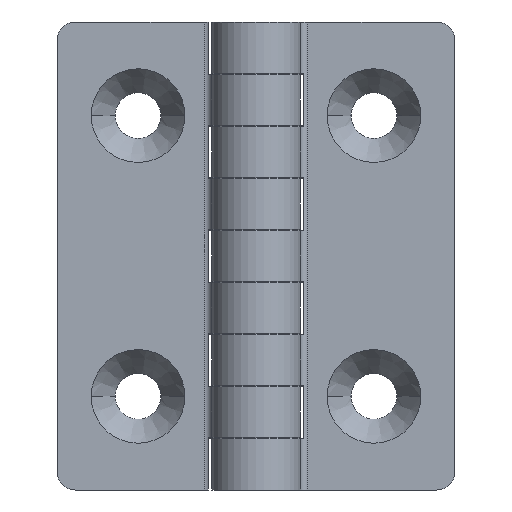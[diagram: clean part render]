
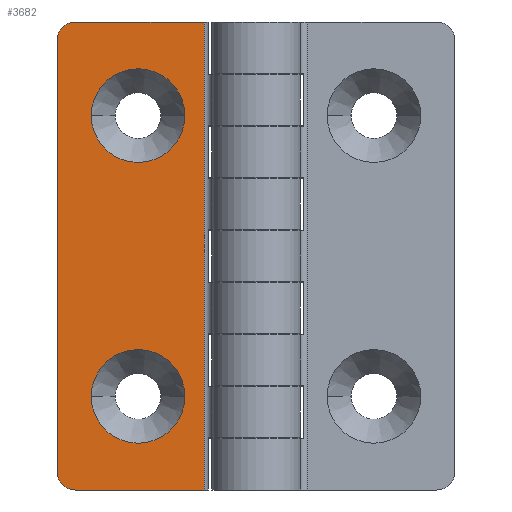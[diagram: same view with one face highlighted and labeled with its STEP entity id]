
A CAD part, front view. The second image highlights one B-rep face of the part: STEP entity #3682.
In plain terms, the highlighted planar face has unit normal (0, -1, 0).
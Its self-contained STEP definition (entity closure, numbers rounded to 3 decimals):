
#311=CARTESIAN_POINT('',(0.85,2.3,-19.05));
#312=VERTEX_POINT('',#311);
#328=CARTESIAN_POINT('',(-11.85,2.3,-19.05));
#329=VERTEX_POINT('',#328);
#336=CARTESIAN_POINT('',(-5.5,2.3,-19.05));
#337=DIRECTION('',(0.0,1.0,0.0));
#338=DIRECTION('',(1.0,0.0,0.0));
#339=AXIS2_PLACEMENT_3D('',#336,#337,#338);
#340=CIRCLE('',#339,6.35);
#341=EDGE_CURVE('',#312,#329,#340,.T.);
#353=CARTESIAN_POINT('',(0.85,2.3,19.05));
#354=VERTEX_POINT('',#353);
#370=CARTESIAN_POINT('',(-11.85,2.3,19.05));
#371=VERTEX_POINT('',#370);
#378=CARTESIAN_POINT('',(-5.5,2.3,19.05));
#379=DIRECTION('',(0.0,1.0,0.0));
#380=DIRECTION('',(1.0,0.0,0.0));
#381=AXIS2_PLACEMENT_3D('',#378,#379,#380);
#382=CIRCLE('',#381,6.35);
#383=EDGE_CURVE('',#354,#371,#382,.T.);
#1753=CARTESIAN_POINT('',(3.5,2.3,31.75));
#1754=VERTEX_POINT('',#1753);
#1762=CARTESIAN_POINT('',(3.5,2.3,-31.75));
#1763=VERTEX_POINT('',#1762);
#1764=CARTESIAN_POINT('',(3.5,2.3,31.75));
#1765=DIRECTION('',(0.0,0.0,-1.0));
#1766=VECTOR('',#1765,63.5);
#1767=LINE('',#1764,#1766);
#1768=EDGE_CURVE('',#1754,#1763,#1767,.T.);
#3552=CARTESIAN_POINT('',(-5.5,2.3,19.05));
#3553=DIRECTION('',(0.0,1.0,0.0));
#3554=DIRECTION('',(1.0,0.0,0.0));
#3555=AXIS2_PLACEMENT_3D('',#3552,#3553,#3554);
#3556=CIRCLE('',#3555,6.35);
#3557=EDGE_CURVE('',#371,#354,#3556,.T.);
#3576=CARTESIAN_POINT('',(-5.5,2.3,-19.05));
#3577=DIRECTION('',(0.0,1.0,0.0));
#3578=DIRECTION('',(1.0,0.0,0.0));
#3579=AXIS2_PLACEMENT_3D('',#3576,#3577,#3578);
#3580=CIRCLE('',#3579,6.35);
#3581=EDGE_CURVE('',#329,#312,#3580,.T.);
#3599=CARTESIAN_POINT('',(-14.,2.3,31.75));
#3600=VERTEX_POINT('',#3599);
#3601=CARTESIAN_POINT('',(-16.5,2.3,29.25));
#3602=VERTEX_POINT('',#3601);
#3603=CARTESIAN_POINT('',(-14.,2.3,29.25));
#3604=DIRECTION('',(0.0,-1.0,0.0));
#3605=DIRECTION('',(0.0,0.0,1.0));
#3606=AXIS2_PLACEMENT_3D('',#3603,#3604,#3605);
#3607=CIRCLE('',#3606,2.5);
#3608=EDGE_CURVE('',#3600,#3602,#3607,.T.);
#3636=CARTESIAN_POINT('',(-16.5,2.3,31.75));
#3637=DIRECTION('',(0.0,-1.0,0.0));
#3638=DIRECTION('',(-1.0,0.0,0.0));
#3639=AXIS2_PLACEMENT_3D('',#3636,#3637,#3638);
#3640=PLANE('',#3639);
#3641=ORIENTED_EDGE('',*,*,#3608,.T.);
#3642=CARTESIAN_POINT('',(-16.5,2.3,-29.25));
#3643=VERTEX_POINT('',#3642);
#3644=CARTESIAN_POINT('',(-16.5,2.3,29.25));
#3645=DIRECTION('',(0.0,0.0,-1.0));
#3646=VECTOR('',#3645,58.5);
#3647=LINE('',#3644,#3646);
#3648=EDGE_CURVE('',#3602,#3643,#3647,.T.);
#3649=ORIENTED_EDGE('',*,*,#3648,.T.);
#3650=CARTESIAN_POINT('',(-14.,2.3,-31.75));
#3651=VERTEX_POINT('',#3650);
#3652=CARTESIAN_POINT('',(-14.,2.3,-29.25));
#3653=DIRECTION('',(0.0,-1.0,0.0));
#3654=DIRECTION('',(0.0,0.0,-1.0));
#3655=AXIS2_PLACEMENT_3D('',#3652,#3653,#3654);
#3656=CIRCLE('',#3655,2.5);
#3657=EDGE_CURVE('',#3643,#3651,#3656,.T.);
#3658=ORIENTED_EDGE('',*,*,#3657,.T.);
#3659=CARTESIAN_POINT('',(-14.,2.3,-31.75));
#3660=DIRECTION('',(1.0,0.0,0.0));
#3661=VECTOR('',#3660,17.5);
#3662=LINE('',#3659,#3661);
#3663=EDGE_CURVE('',#3651,#1763,#3662,.T.);
#3664=ORIENTED_EDGE('',*,*,#3663,.T.);
#3665=ORIENTED_EDGE('',*,*,#1768,.F.);
#3666=CARTESIAN_POINT('',(3.5,2.3,31.75));
#3667=DIRECTION('',(-1.0,0.0,0.0));
#3668=VECTOR('',#3667,17.5);
#3669=LINE('',#3666,#3668);
#3670=EDGE_CURVE('',#1754,#3600,#3669,.T.);
#3671=ORIENTED_EDGE('',*,*,#3670,.T.);
#3672=EDGE_LOOP('',(#3641,#3649,#3658,#3664,#3665,#3671));
#3673=FACE_OUTER_BOUND('',#3672,.T.);
#3674=ORIENTED_EDGE('',*,*,#383,.T.);
#3675=ORIENTED_EDGE('',*,*,#3557,.T.);
#3676=EDGE_LOOP('',(#3674,#3675));
#3677=FACE_BOUND('',#3676,.T.);
#3678=ORIENTED_EDGE('',*,*,#341,.T.);
#3679=ORIENTED_EDGE('',*,*,#3581,.T.);
#3680=EDGE_LOOP('',(#3678,#3679));
#3681=FACE_BOUND('',#3680,.T.);
#3682=ADVANCED_FACE('',(#3673,#3677,#3681),#3640,.T.);
